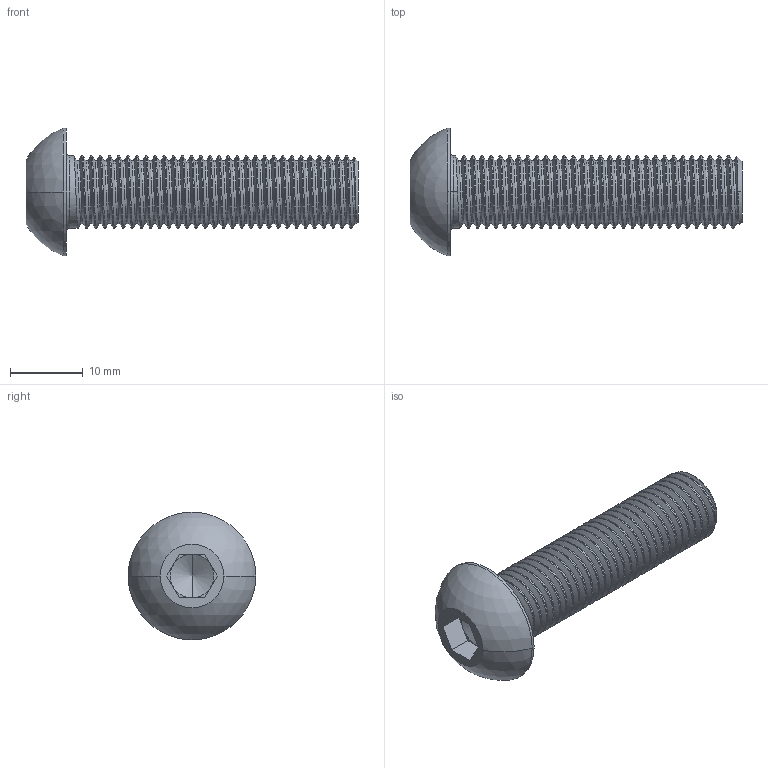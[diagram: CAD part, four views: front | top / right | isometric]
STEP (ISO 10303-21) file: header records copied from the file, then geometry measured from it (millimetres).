
FILE_DESCRIPTION (( 'STEP AP214' ), '1' );
FILE_NAME ('M10x40_ISO7380.STEP', '2026-08-28T11:58:39', ( '' ), ( '' ), 'SwSTEP 2.0', 'SolidWorks 2022', '' );
FILE_SCHEMA (( 'AUTOMOTIVE_DESIGN' ));
Length unit declared in the file: millimetre
Products named in the file (1): M10x40_ISO7380
Bounding box: 45.5 x 17.5 x 17.5 mm (x, y, z)
Volume: 3514.3 mm3; surface area: 2534.4 mm2
Topology: 1 solids, 1 shells, 92 faces, 254 edges, 164 vertices
Faces by surface type: cylinder 65, plane 16, cone 4, bspline 3, torus 2, sphere 2
Entity records: 8516 total; most frequent: CARTESIAN_POINT 5833, ORIENTED_EDGE 504, DIRECTION 326, EDGE_CURVE 252, VERTEX_POINT 164, AXIS2_PLACEMENT_3D 115, LINE 96, VECTOR 96
